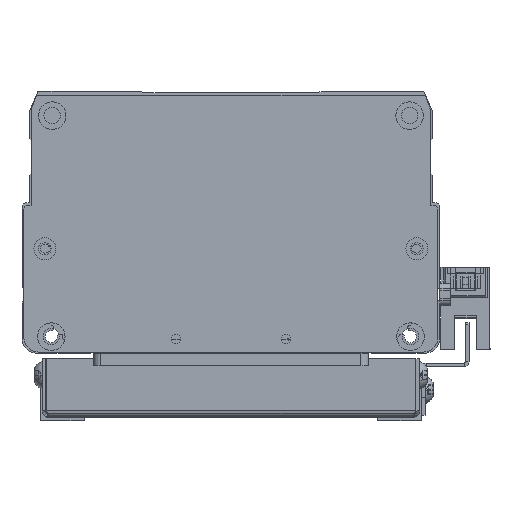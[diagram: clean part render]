
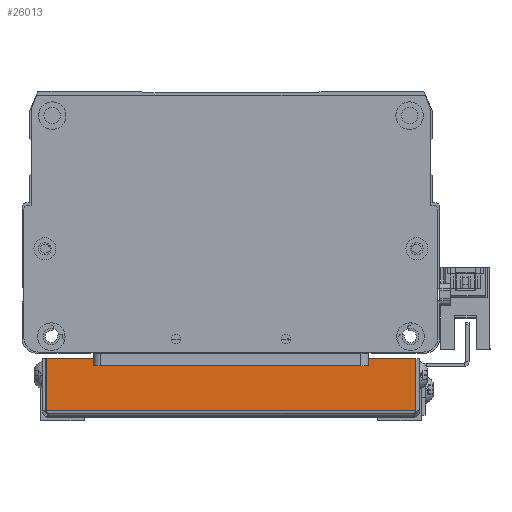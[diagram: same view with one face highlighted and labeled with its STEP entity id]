
A CAD part, front view. The second image highlights one B-rep face of the part: STEP entity #26013.
In plain terms, the highlighted planar face has unit normal (0, -1, 0) as drawn and (0, 0, -1) by its records, which use the part's own axes.
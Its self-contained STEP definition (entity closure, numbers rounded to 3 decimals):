
#225 = CARTESIAN_POINT ( 'NONE',  ( 83.272, 142.76, -9.273 ) ) ;
#1076 = DIRECTION ( 'NONE',  ( 1., 0., 0. ) ) ;
#1477 = CARTESIAN_POINT ( 'NONE',  ( 83.272, 128.497, -9.273 ) ) ;
#2035 = DIRECTION ( 'NONE',  ( 0., 0., 1. ) ) ;
#2287 = ORIENTED_EDGE ( 'NONE', *, *, #16464, .F. ) ;
#2846 = VECTOR ( 'NONE', #1076, 1000. ) ;
#4128 = CARTESIAN_POINT ( 'NONE',  ( 184.072, 142.76, -9.273 ) ) ;
#5463 = CARTESIAN_POINT ( 'NONE',  ( 83.172, 128.497, -9.273 ) ) ;
#6102 = EDGE_LOOP ( 'NONE', ( #2287, #19583, #9784, #16430 ) ) ;
#6400 = DIRECTION ( 'NONE',  ( 0., -1., 0. ) ) ;
#7051 = LINE ( 'NONE', #11954, #17585 ) ;
#8482 = LINE ( 'NONE', #225, #26039 ) ;
#8687 = CARTESIAN_POINT ( 'NONE',  ( 184.072, 142.76, -9.273 ) ) ;
#9784 = ORIENTED_EDGE ( 'NONE', *, *, #17238, .F. ) ;
#11954 = CARTESIAN_POINT ( 'NONE',  ( 262.181, 142.76, -9.273 ) ) ;
#12099 = EDGE_CURVE ( 'NONE', #24824, #27656, #8482, .T. ) ;
#12433 = VERTEX_POINT ( 'NONE', #4128 ) ;
#13914 = DIRECTION ( 'NONE',  ( 0., -1., 0. ) ) ;
#14027 = LINE ( 'NONE', #5463, #2846 ) ;
#14589 = VERTEX_POINT ( 'NONE', #15120 ) ;
#15071 = LINE ( 'NONE', #8687, #15777 ) ;
#15120 = CARTESIAN_POINT ( 'NONE',  ( 184.072, 128.497, -9.273 ) ) ;
#15246 = CARTESIAN_POINT ( 'NONE',  ( 262.181, 144.497, -9.273 ) ) ;
#15563 = DIRECTION ( 'NONE',  ( 0., -1., 0. ) ) ;
#15777 = VECTOR ( 'NONE', #15563, 1000. ) ;
#16430 = ORIENTED_EDGE ( 'NONE', *, *, #12099, .F. ) ;
#16464 = EDGE_CURVE ( 'NONE', #12433, #24824, #7051, .T. ) ;
#16486 = DIRECTION ( 'NONE',  ( -1., 0., 0. ) ) ;
#17238 = EDGE_CURVE ( 'NONE', #27656, #14589, #14027, .T. ) ;
#17585 = VECTOR ( 'NONE', #16486, 1000. ) ;
#19583 = ORIENTED_EDGE ( 'NONE', *, *, #24042, .T. ) ;
#21919 = PLANE ( 'NONE',  #24521 ) ;
#24042 = EDGE_CURVE ( 'NONE', #12433, #14589, #15071, .T. ) ;
#24521 = AXIS2_PLACEMENT_3D ( 'NONE', #15246, #2035, #6400 ) ;
#24824 = VERTEX_POINT ( 'NONE', #27567 ) ;
#26013 = ADVANCED_FACE ( 'NONE', ( #28720 ), #21919, .F. ) ;
#26039 = VECTOR ( 'NONE', #13914, 1000. ) ;
#27567 = CARTESIAN_POINT ( 'NONE',  ( 83.272, 142.76, -9.273 ) ) ;
#27656 = VERTEX_POINT ( 'NONE', #1477 ) ;
#28720 = FACE_OUTER_BOUND ( 'NONE', #6102, .T. ) ;
